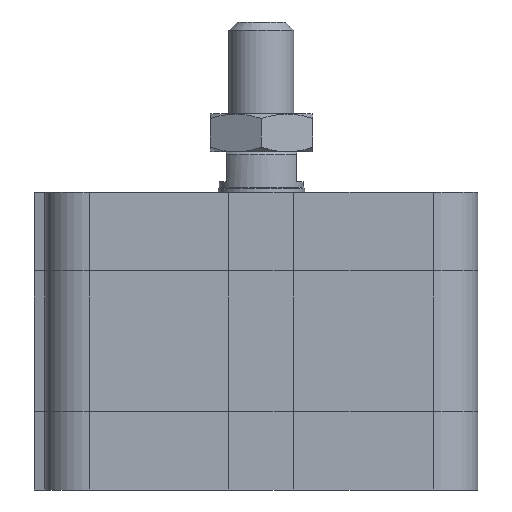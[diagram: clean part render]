
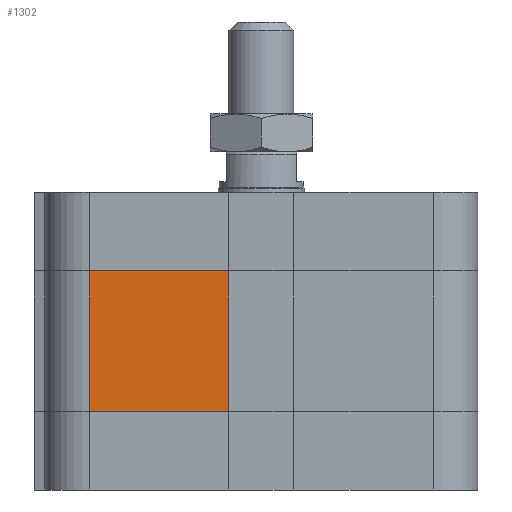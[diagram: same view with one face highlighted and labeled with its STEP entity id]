
A CAD part, left-side view. The second image highlights one B-rep face of the part: STEP entity #1302.
In plain terms, the highlighted planar face has unit normal (-1, 0, 0).
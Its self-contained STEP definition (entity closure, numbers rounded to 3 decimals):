
#1213=CARTESIAN_POINT('',(-40.,31.75,14.5));
#1214=VERTEX_POINT('',#1213);
#1222=CARTESIAN_POINT('',(-40.,31.75,40.5));
#1223=VERTEX_POINT('',#1222);
#1224=CARTESIAN_POINT('',(-40.,31.75,14.5));
#1225=DIRECTION('',(0.0,0.0,1.0));
#1226=VECTOR('',#1225,26.);
#1227=LINE('',#1224,#1226);
#1228=EDGE_CURVE('',#1214,#1223,#1227,.T.);
#1272=CARTESIAN_POINT('',(-40.0,6.,0.0));
#1273=DIRECTION('',(-1.0,0.0,0.0));
#1274=DIRECTION('',(0.0,0.0,1.0));
#1275=AXIS2_PLACEMENT_3D('',#1272,#1273,#1274);
#1276=PLANE('',#1275);
#1277=CARTESIAN_POINT('',(-40.0,6.,14.5));
#1278=VERTEX_POINT('',#1277);
#1279=CARTESIAN_POINT('',(-40.,31.75,14.5));
#1280=DIRECTION('',(0.0,-1.0,0.0));
#1281=VECTOR('',#1280,25.75);
#1282=LINE('',#1279,#1281);
#1283=EDGE_CURVE('',#1214,#1278,#1282,.T.);
#1284=ORIENTED_EDGE('',*,*,#1283,.T.);
#1285=CARTESIAN_POINT('',(-40.0,6.,40.5));
#1286=VERTEX_POINT('',#1285);
#1287=CARTESIAN_POINT('',(-40.0,6.,14.5));
#1288=DIRECTION('',(0.0,0.0,1.0));
#1289=VECTOR('',#1288,26.);
#1290=LINE('',#1287,#1289);
#1291=EDGE_CURVE('',#1278,#1286,#1290,.T.);
#1292=ORIENTED_EDGE('',*,*,#1291,.T.);
#1293=CARTESIAN_POINT('',(-40.,31.75,40.5));
#1294=DIRECTION('',(0.0,-1.0,0.0));
#1295=VECTOR('',#1294,25.75);
#1296=LINE('',#1293,#1295);
#1297=EDGE_CURVE('',#1223,#1286,#1296,.T.);
#1298=ORIENTED_EDGE('',*,*,#1297,.F.);
#1299=ORIENTED_EDGE('',*,*,#1228,.F.);
#1300=EDGE_LOOP('',(#1284,#1292,#1298,#1299));
#1301=FACE_OUTER_BOUND('',#1300,.T.);
#1302=ADVANCED_FACE('',(#1301),#1276,.T.);
